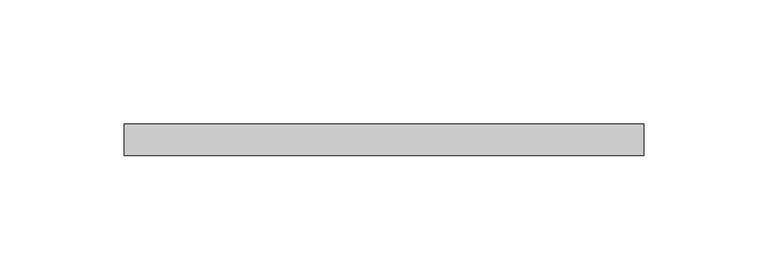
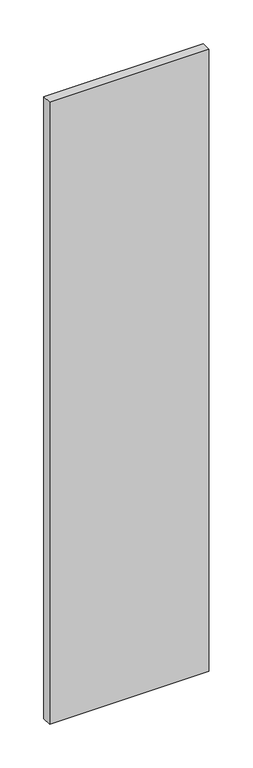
"""IFC4 building model written with IfcOpenShell, lengths in millimetres: proxy geometry, LIVERS_ICN - Glass Panel : LIVERS_ICN - Glass Panel."""

from ifc_helpers import new_model, si_unit, frame, origin, place, context, project, spatial, polyline, outline, extrude, source, transform, mapped, element, save


def building_element_proxy_dbcacdc5(model_context):
    return source(origin(), model_context, "Body", "SweptSolid", [
        extrude(outline(polyline([(715.7977363, 34.1309994), (506.7974379, 34.1309994), (506.7974379, 46.8311957), (715.7977363, 46.8311957), (715.7977363, 34.1309994)])), frame((0.0, 0.0, 114.3), z_axis=(0.0, 0.0, 1.0), x_axis=(1.0, 0.0, 0.0)), (0.0, 0.0, 1.0), 863.6),
    ])


if __name__ == "__main__":
    model = new_model("IFC4")
    model_context = context("Model", 3, world=origin())
    ifc_project = project(units=[si_unit("LENGTHUNIT", "METRE", prefix="MILLI")], contexts=[model_context])
    site = spatial("IfcSite", under=ifc_project)
    building = spatial("IfcBuilding", under=site)
    placement = place(None, origin())
    building_element_proxy_shape = building_element_proxy_dbcacdc5(model_context)
    element("IfcBuildingElementProxy", 1, Name="LIVERS_ICN - Glass Panel : LIVERS_ICN - Glass Panel", ObjectType="LIVERS_ICN - Glass Panel : LIVERS_ICN - Glass Panel", at=placement, inside=building, context=model_context, shape_type="MappedRepresentation", body=[
        mapped(building_element_proxy_shape, transform((0.0, 0.0, 0.0), x_axis=(1.0, 0.0, 0.0), y_axis=(0.0, 1.0, 0.0), z_axis=(0.0, 0.0, 1.0))),
    ])
    save(model, "model.ifc")
